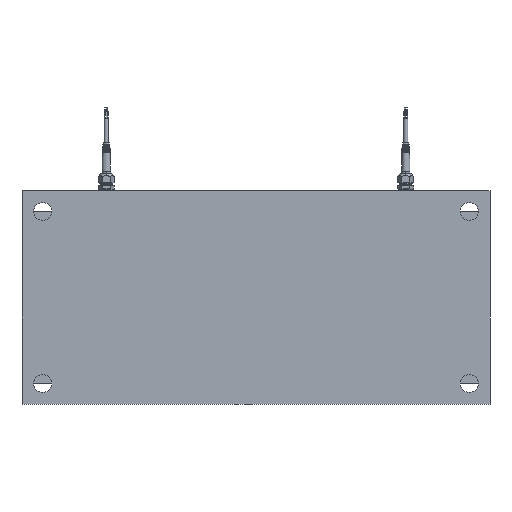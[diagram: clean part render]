
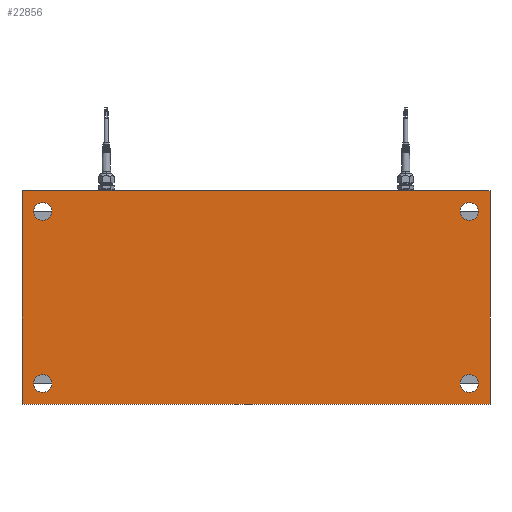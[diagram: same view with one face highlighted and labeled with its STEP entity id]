
A CAD part, front view. The second image highlights one B-rep face of the part: STEP entity #22856.
In plain terms, the highlighted planar face has unit normal (0, -1, 0).
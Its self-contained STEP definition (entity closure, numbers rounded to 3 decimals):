
#253 = ORIENTED_EDGE ( 'NONE', *, *, #1979, .F. ) ;
#389 = CARTESIAN_POINT ( 'NONE',  ( 310., 0., 125. ) ) ;
#628 = FACE_BOUND ( 'NONE', #2993, .T. ) ;
#1001 = LINE ( 'NONE', #3034, #5557 ) ;
#1258 = VERTEX_POINT ( 'NONE', #17079 ) ;
#1605 = CARTESIAN_POINT ( 'NONE',  ( 310., 0., -125. ) ) ;
#1628 = ORIENTED_EDGE ( 'NONE', *, *, #5490, .F. ) ;
#1690 = DIRECTION ( 'NONE',  ( 0., -1., 0. ) ) ;
#1863 = VECTOR ( 'NONE', #15165, 1000. ) ;
#1979 = EDGE_CURVE ( 'NONE', #20418, #18661, #1001, .T. ) ;
#2088 = FACE_BOUND ( 'NONE', #5970, .T. ) ;
#2099 = AXIS2_PLACEMENT_3D ( 'NONE', #20134, #18131, #16352 ) ;
#2901 = LINE ( 'NONE', #19262, #10622 ) ;
#2919 = CIRCLE ( 'NONE', #3307, 13. ) ;
#2993 = EDGE_LOOP ( 'NONE', ( #5309, #13917 ) ) ;
#3034 = CARTESIAN_POINT ( 'NONE',  ( -340., 0., -155. ) ) ;
#3092 = AXIS2_PLACEMENT_3D ( 'NONE', #18800, #11188, #9290 ) ;
#3172 = CARTESIAN_POINT ( 'NONE',  ( 310., 0., -112. ) ) ;
#3265 = DIRECTION ( 'NONE',  ( 0., 0., -1. ) ) ;
#3307 = AXIS2_PLACEMENT_3D ( 'NONE', #1605, #19515, #3265 ) ;
#4119 = LINE ( 'NONE', #8001, #1863 ) ;
#4923 = CARTESIAN_POINT ( 'NONE',  ( -310., 0., 112. ) ) ;
#4976 = AXIS2_PLACEMENT_3D ( 'NONE', #389, #13445, #9747 ) ;
#5271 = CARTESIAN_POINT ( 'NONE',  ( 310., 0., -125. ) ) ;
#5309 = ORIENTED_EDGE ( 'NONE', *, *, #11927, .F. ) ;
#5490 = EDGE_CURVE ( 'NONE', #15901, #8970, #12926, .T. ) ;
#5495 = ORIENTED_EDGE ( 'NONE', *, *, #22860, .F. ) ;
#5557 = VECTOR ( 'NONE', #13694, 1000. ) ;
#5860 = CARTESIAN_POINT ( 'NONE',  ( -310., 0., 125. ) ) ;
#5970 = EDGE_LOOP ( 'NONE', ( #16130, #1628 ) ) ;
#6212 = FACE_BOUND ( 'NONE', #6538, .T. ) ;
#6538 = EDGE_LOOP ( 'NONE', ( #8702, #11962 ) ) ;
#6558 = EDGE_CURVE ( 'NONE', #8970, #15901, #20941, .T. ) ;
#6621 = VERTEX_POINT ( 'NONE', #8651 ) ;
#6672 = EDGE_LOOP ( 'NONE', ( #23402, #19815, #20610, #253 ) ) ;
#6701 = CARTESIAN_POINT ( 'NONE',  ( 310., 0., 112. ) ) ;
#7027 = EDGE_CURVE ( 'NONE', #13518, #21596, #8285, .T. ) ;
#7214 = DIRECTION ( 'NONE',  ( 0., 0., -1. ) ) ;
#7595 = EDGE_CURVE ( 'NONE', #6621, #19565, #17638, .T. ) ;
#7743 = PLANE ( 'NONE',  #3092 ) ;
#8001 = CARTESIAN_POINT ( 'NONE',  ( 340., 0., -155. ) ) ;
#8285 = CIRCLE ( 'NONE', #21571, 13. ) ;
#8542 = DIRECTION ( 'NONE',  ( 0., 0., 1. ) ) ;
#8651 = CARTESIAN_POINT ( 'NONE',  ( -310., 0., -112. ) ) ;
#8702 = ORIENTED_EDGE ( 'NONE', *, *, #11583, .F. ) ;
#8759 = DIRECTION ( 'NONE',  ( 0., -1., 0. ) ) ;
#8970 = VERTEX_POINT ( 'NONE', #4923 ) ;
#9290 = DIRECTION ( 'NONE',  ( 0., 0., 1. ) ) ;
#9747 = DIRECTION ( 'NONE',  ( 0., 0., -1. ) ) ;
#10084 = CARTESIAN_POINT ( 'NONE',  ( 340., 0., 155. ) ) ;
#10515 = DIRECTION ( 'NONE',  ( 0., -1., 0. ) ) ;
#10622 = VECTOR ( 'NONE', #8542, 1000. ) ;
#10732 = CARTESIAN_POINT ( 'NONE',  ( -340., 0., 155. ) ) ;
#10822 = LINE ( 'NONE', #19982, #11983 ) ;
#10873 = CIRCLE ( 'NONE', #18875, 13. ) ;
#11097 = EDGE_CURVE ( 'NONE', #19670, #1258, #2919, .T. ) ;
#11158 = EDGE_CURVE ( 'NONE', #21287, #20853, #10822, .T. ) ;
#11188 = DIRECTION ( 'NONE',  ( 0., 1., 0. ) ) ;
#11307 = FACE_OUTER_BOUND ( 'NONE', #6672, .T. ) ;
#11583 = EDGE_CURVE ( 'NONE', #1258, #19670, #22996, .T. ) ;
#11927 = EDGE_CURVE ( 'NONE', #19565, #6621, #10873, .T. ) ;
#11962 = ORIENTED_EDGE ( 'NONE', *, *, #11097, .F. ) ;
#11983 = VECTOR ( 'NONE', #18101, 1000. ) ;
#12326 = CARTESIAN_POINT ( 'NONE',  ( 310., 0., 125. ) ) ;
#12505 = DIRECTION ( 'NONE',  ( 0., -1., 0. ) ) ;
#12604 = ORIENTED_EDGE ( 'NONE', *, *, #7027, .F. ) ;
#12819 = CARTESIAN_POINT ( 'NONE',  ( -310., 0., 138. ) ) ;
#12926 = CIRCLE ( 'NONE', #23149, 13. ) ;
#13119 = CARTESIAN_POINT ( 'NONE',  ( 340., 0., -155. ) ) ;
#13445 = DIRECTION ( 'NONE',  ( 0., -1., 0. ) ) ;
#13518 = VERTEX_POINT ( 'NONE', #6701 ) ;
#13694 = DIRECTION ( 'NONE',  ( -1., 0., 0. ) ) ;
#13917 = ORIENTED_EDGE ( 'NONE', *, *, #7595, .F. ) ;
#14262 = DIRECTION ( 'NONE',  ( 0., 0., -1. ) ) ;
#14272 = DIRECTION ( 'NONE',  ( 0., 0., -1. ) ) ;
#15165 = DIRECTION ( 'NONE',  ( 0., 0., -1. ) ) ;
#15802 = CARTESIAN_POINT ( 'NONE',  ( -310., 0., -125. ) ) ;
#15901 = VERTEX_POINT ( 'NONE', #12819 ) ;
#16130 = ORIENTED_EDGE ( 'NONE', *, *, #6558, .F. ) ;
#16352 = DIRECTION ( 'NONE',  ( 0., 0., -1. ) ) ;
#16755 = CIRCLE ( 'NONE', #4976, 13. ) ;
#17079 = CARTESIAN_POINT ( 'NONE',  ( 310., 0., -138. ) ) ;
#17166 = AXIS2_PLACEMENT_3D ( 'NONE', #5860, #1690, #23256 ) ;
#17184 = CARTESIAN_POINT ( 'NONE',  ( -310., 0., -138. ) ) ;
#17638 = CIRCLE ( 'NONE', #2099, 13. ) ;
#18101 = DIRECTION ( 'NONE',  ( 1., 0., 0. ) ) ;
#18131 = DIRECTION ( 'NONE',  ( 0., -1., 0. ) ) ;
#18149 = EDGE_LOOP ( 'NONE', ( #12604, #5495 ) ) ;
#18661 = VERTEX_POINT ( 'NONE', #20223 ) ;
#18800 = CARTESIAN_POINT ( 'NONE',  ( 0., 0., 0. ) ) ;
#18875 = AXIS2_PLACEMENT_3D ( 'NONE', #15802, #21350, #14262 ) ;
#19262 = CARTESIAN_POINT ( 'NONE',  ( -340., 0., -155. ) ) ;
#19515 = DIRECTION ( 'NONE',  ( 0., -1., 0. ) ) ;
#19565 = VERTEX_POINT ( 'NONE', #17184 ) ;
#19670 = VERTEX_POINT ( 'NONE', #3172 ) ;
#19815 = ORIENTED_EDGE ( 'NONE', *, *, #11158, .F. ) ;
#19982 = CARTESIAN_POINT ( 'NONE',  ( -340., 0., 155. ) ) ;
#20134 = CARTESIAN_POINT ( 'NONE',  ( -310., 0., -125. ) ) ;
#20223 = CARTESIAN_POINT ( 'NONE',  ( -340., 0., -155. ) ) ;
#20376 = CARTESIAN_POINT ( 'NONE',  ( 310., 0., 138. ) ) ;
#20418 = VERTEX_POINT ( 'NONE', #13119 ) ;
#20505 = EDGE_CURVE ( 'NONE', #20853, #20418, #4119, .T. ) ;
#20610 = ORIENTED_EDGE ( 'NONE', *, *, #22295, .F. ) ;
#20853 = VERTEX_POINT ( 'NONE', #10084 ) ;
#20941 = CIRCLE ( 'NONE', #17166, 13. ) ;
#21287 = VERTEX_POINT ( 'NONE', #10732 ) ;
#21350 = DIRECTION ( 'NONE',  ( 0., -1., 0. ) ) ;
#21571 = AXIS2_PLACEMENT_3D ( 'NONE', #12326, #10515, #7214 ) ;
#21596 = VERTEX_POINT ( 'NONE', #20376 ) ;
#21771 = DIRECTION ( 'NONE',  ( 0., 0., -1. ) ) ;
#22295 = EDGE_CURVE ( 'NONE', #18661, #21287, #2901, .T. ) ;
#22459 = FACE_BOUND ( 'NONE', #18149, .T. ) ;
#22629 = AXIS2_PLACEMENT_3D ( 'NONE', #5271, #12505, #21771 ) ;
#22856 = ADVANCED_FACE ( 'NONE', ( #2088, #22459, #6212, #628, #11307 ), #7743, .F. ) ;
#22860 = EDGE_CURVE ( 'NONE', #21596, #13518, #16755, .T. ) ;
#22996 = CIRCLE ( 'NONE', #22629, 13. ) ;
#23149 = AXIS2_PLACEMENT_3D ( 'NONE', #23372, #8759, #14272 ) ;
#23256 = DIRECTION ( 'NONE',  ( 0., 0., -1. ) ) ;
#23372 = CARTESIAN_POINT ( 'NONE',  ( -310., 0., 125. ) ) ;
#23402 = ORIENTED_EDGE ( 'NONE', *, *, #20505, .F. ) ;
